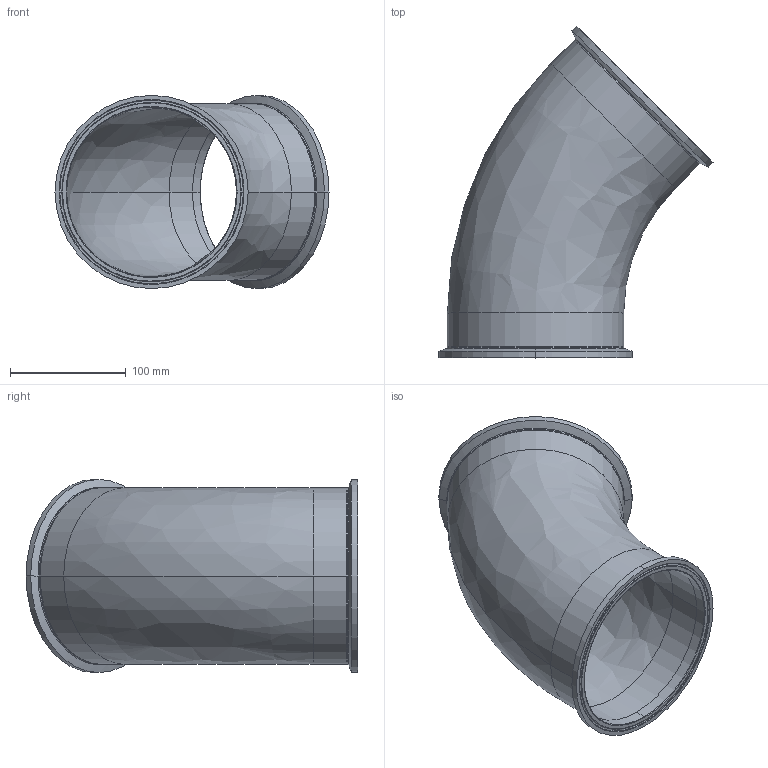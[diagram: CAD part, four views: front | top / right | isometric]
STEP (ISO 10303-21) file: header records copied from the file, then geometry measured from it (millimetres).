
FILE_DESCRIPTION (( 'STEP AP214' ), '1' );
FILE_NAME ('TEG2K6L6.0-...STEP', '2016-05-22T07:37:36', ( 'eran' ), ( '' ), 'SwSTEP 2.0', 'SolidWorks 2016', '' );
FILE_SCHEMA (( 'AUTOMOTIVE_DESIGN' ));
Length unit declared in the file: millimetre
Products named in the file (1): TEG2K6L6.0-..
Bounding box: 236.77 x 286.73 x 166.88 mm (x, y, z)
Volume: 383329.5 mm3; surface area: 262599.9 mm2
Topology: 3 solids, 3 shells, 64 faces, 156 edges, 100 vertices
Faces by surface type: bspline 24, cylinder 20, cone 12, plane 8
Entity records: 4001 total; most frequent: CARTESIAN_POINT 2445, DIRECTION 338, ORIENTED_EDGE 312, EDGE_CURVE 156, AXIS2_PLACEMENT_3D 153, CIRCLE 112, VERTEX_POINT 100, EDGE_LOOP 72
